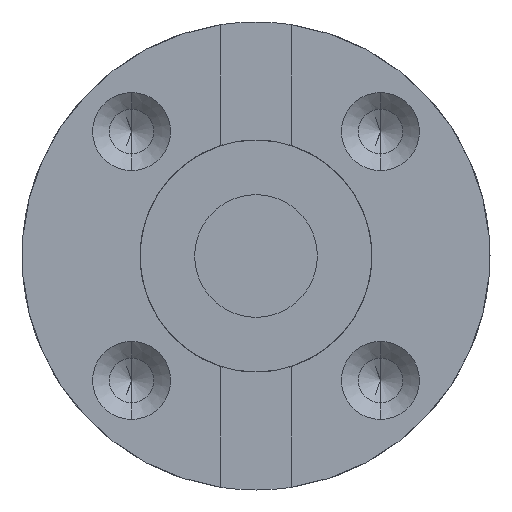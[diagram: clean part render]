
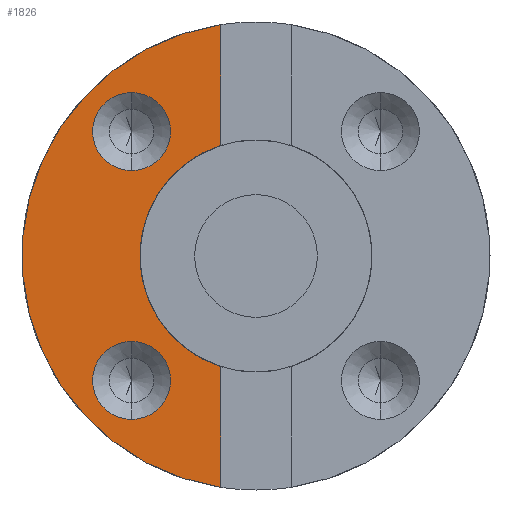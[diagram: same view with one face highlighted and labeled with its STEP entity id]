
A CAD part, front view. The second image highlights one B-rep face of the part: STEP entity #1826.
In plain terms, the highlighted planar face has unit normal (0, -1, 0).
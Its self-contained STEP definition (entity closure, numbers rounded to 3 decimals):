
#6 = VERTEX_POINT ( 'NONE', #1415 ) ;
#7 = CARTESIAN_POINT ( 'NONE',  ( -9.12, 0., -9.12 ) ) ;
#21 = VERTEX_POINT ( 'NONE', #2063 ) ;
#70 = AXIS2_PLACEMENT_3D ( 'NONE', #1559, #1552, #1549 ) ;
#77 = ORIENTED_EDGE ( 'NONE', *, *, #2206, .F. ) ;
#85 = VERTEX_POINT ( 'NONE', #697 ) ;
#103 = DIRECTION ( 'NONE',  ( 0., 0., -1. ) ) ;
#128 = AXIS2_PLACEMENT_3D ( 'NONE', #140, #844, #103 ) ;
#129 = FACE_BOUND ( 'NONE', #520, .T. ) ;
#140 = CARTESIAN_POINT ( 'NONE',  ( -9.12, 0., 9.12 ) ) ;
#172 = DIRECTION ( 'NONE',  ( 0., -1., 0. ) ) ;
#188 = AXIS2_PLACEMENT_3D ( 'NONE', #1611, #1610, #1606 ) ;
#236 = CIRCLE ( 'NONE', #1798, 2.858 ) ;
#305 = DIRECTION ( 'NONE',  ( 0., 0., -1. ) ) ;
#311 = CARTESIAN_POINT ( 'NONE',  ( -2.575, 0., 8.101 ) ) ;
#327 = LINE ( 'NONE', #1650, #1654 ) ;
#339 = ORIENTED_EDGE ( 'NONE', *, *, #527, .F. ) ;
#520 = EDGE_LOOP ( 'NONE', ( #77, #339 ) ) ;
#526 = ORIENTED_EDGE ( 'NONE', *, *, #2076, .T. ) ;
#527 = EDGE_CURVE ( 'NONE', #2167, #85, #1121, .T. ) ;
#560 = CIRCLE ( 'NONE', #1759, 2.857 ) ;
#568 = VERTEX_POINT ( 'NONE', #999 ) ;
#578 = ORIENTED_EDGE ( 'NONE', *, *, #623, .F. ) ;
#623 = EDGE_CURVE ( 'NONE', #1170, #6, #965, .T. ) ;
#673 = DIRECTION ( 'NONE',  ( 0., 0., -1. ) ) ;
#684 = DIRECTION ( 'NONE',  ( 0., -1., 0. ) ) ;
#685 = ORIENTED_EDGE ( 'NONE', *, *, #2137, .T. ) ;
#697 = CARTESIAN_POINT ( 'NONE',  ( -9.12, 0., 6.263 ) ) ;
#704 = VERTEX_POINT ( 'NONE', #2176 ) ;
#705 = CARTESIAN_POINT ( 'NONE',  ( 0., 0., 0. ) ) ;
#732 = ORIENTED_EDGE ( 'NONE', *, *, #2178, .F. ) ;
#770 = PLANE ( 'NONE',  #1572 ) ;
#844 = DIRECTION ( 'NONE',  ( 0., -1., 0. ) ) ;
#889 = ORIENTED_EDGE ( 'NONE', *, *, #2111, .F. ) ;
#965 = CIRCLE ( 'NONE', #1529, 8.5 ) ;
#969 = FACE_BOUND ( 'NONE', #2077, .T. ) ;
#999 = CARTESIAN_POINT ( 'NONE',  ( -2.575, 0., -16.956 ) ) ;
#1024 = CARTESIAN_POINT ( 'NONE',  ( -9.12, 0., 9.12 ) ) ;
#1121 = CIRCLE ( 'NONE', #128, 2.857 ) ;
#1131 = ORIENTED_EDGE ( 'NONE', *, *, #1305, .F. ) ;
#1170 = VERTEX_POINT ( 'NONE', #311 ) ;
#1177 = CIRCLE ( 'NONE', #70, 17.15 ) ;
#1218 = DIRECTION ( 'NONE',  ( 0., 0., -1. ) ) ;
#1225 = VECTOR ( 'NONE', #1670, 1000. ) ;
#1278 = DIRECTION ( 'NONE',  ( 0., -1., 0. ) ) ;
#1305 = EDGE_CURVE ( 'NONE', #21, #2173, #236, .T. ) ;
#1378 = CARTESIAN_POINT ( 'NONE',  ( 0., 0., 0. ) ) ;
#1415 = CARTESIAN_POINT ( 'NONE',  ( -2.575, 0., -8.101 ) ) ;
#1425 = DIRECTION ( 'NONE',  ( 0., 0., -1. ) ) ;
#1428 = FACE_OUTER_BOUND ( 'NONE', #2225, .T. ) ;
#1429 = DIRECTION ( 'NONE',  ( 0., -1., 0. ) ) ;
#1529 = AXIS2_PLACEMENT_3D ( 'NONE', #1378, #1278, #1218 ) ;
#1549 = DIRECTION ( 'NONE',  ( 0., 0., 1. ) ) ;
#1552 = DIRECTION ( 'NONE',  ( 0., 1., 0. ) ) ;
#1559 = CARTESIAN_POINT ( 'NONE',  ( 0., 0., 0. ) ) ;
#1572 = AXIS2_PLACEMENT_3D ( 'NONE', #705, #684, #673 ) ;
#1597 = CARTESIAN_POINT ( 'NONE',  ( -9.12, 0., 11.978 ) ) ;
#1606 = DIRECTION ( 'NONE',  ( 0., 0., -1. ) ) ;
#1610 = DIRECTION ( 'NONE',  ( 0., -1., 0. ) ) ;
#1611 = CARTESIAN_POINT ( 'NONE',  ( -9.12, 0., -9.12 ) ) ;
#1618 = CARTESIAN_POINT ( 'NONE',  ( -9.12, 0., -11.977 ) ) ;
#1642 = DIRECTION ( 'NONE',  ( 0., 0., 1. ) ) ;
#1650 = CARTESIAN_POINT ( 'NONE',  ( -2.575, 0., -17.15 ) ) ;
#1654 = VECTOR ( 'NONE', #1642, 1000. ) ;
#1670 = DIRECTION ( 'NONE',  ( 0., 0., 1. ) ) ;
#1709 = CARTESIAN_POINT ( 'NONE',  ( -2.575, 0., -17.15 ) ) ;
#1713 = CIRCLE ( 'NONE', #188, 2.858 ) ;
#1759 = AXIS2_PLACEMENT_3D ( 'NONE', #1024, #1429, #1425 ) ;
#1798 = AXIS2_PLACEMENT_3D ( 'NONE', #7, #172, #305 ) ;
#1826 = ADVANCED_FACE ( 'NONE', ( #1428, #129, #969 ), #770, .T. ) ;
#2063 = CARTESIAN_POINT ( 'NONE',  ( -9.12, 0., -6.262 ) ) ;
#2076 = EDGE_CURVE ( 'NONE', #1170, #704, #2238, .T. ) ;
#2077 = EDGE_LOOP ( 'NONE', ( #889, #1131 ) ) ;
#2111 = EDGE_CURVE ( 'NONE', #2173, #21, #1713, .T. ) ;
#2137 = EDGE_CURVE ( 'NONE', #568, #6, #327, .T. ) ;
#2167 = VERTEX_POINT ( 'NONE', #1597 ) ;
#2173 = VERTEX_POINT ( 'NONE', #1618 ) ;
#2176 = CARTESIAN_POINT ( 'NONE',  ( -2.575, 0., 16.956 ) ) ;
#2178 = EDGE_CURVE ( 'NONE', #568, #704, #1177, .T. ) ;
#2206 = EDGE_CURVE ( 'NONE', #85, #2167, #560, .T. ) ;
#2225 = EDGE_LOOP ( 'NONE', ( #578, #526, #732, #685 ) ) ;
#2238 = LINE ( 'NONE', #1709, #1225 ) ;
